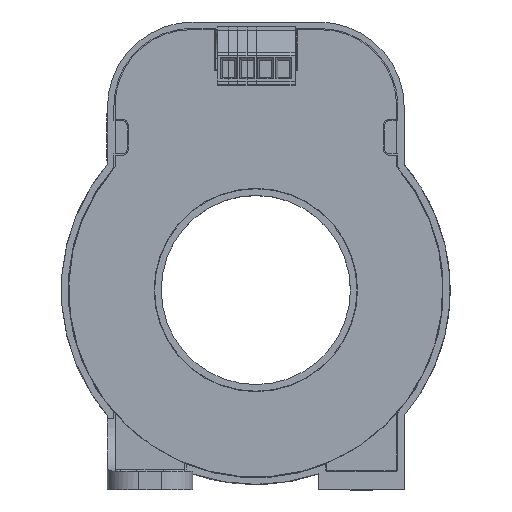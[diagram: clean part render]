
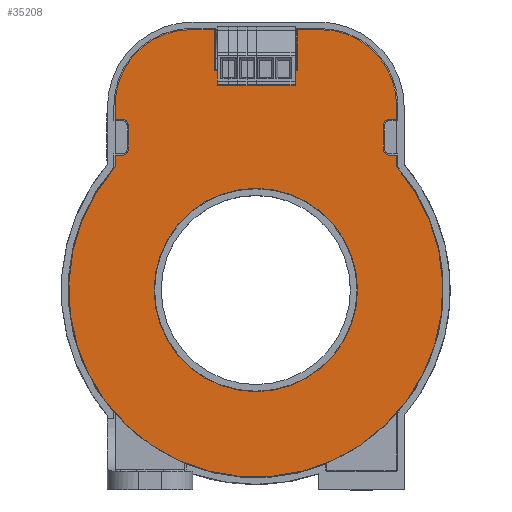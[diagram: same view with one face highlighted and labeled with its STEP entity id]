
A CAD part, top view. The second image highlights one B-rep face of the part: STEP entity #35208.
In plain terms, the highlighted planar face has unit normal (0, 0, 1).
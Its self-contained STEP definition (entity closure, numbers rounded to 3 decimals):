
#122=FACE_BOUND('',#4939,.T.);
#1578=PLANE('',#37513);
#3184=FACE_OUTER_BOUND('',#4938,.T.);
#4938=EDGE_LOOP('',(#30350,#30351,#30352,#30353,#30354,#30355,#30356,#30357,
#30358,#30359,#30360,#30361,#30362,#30363,#30364,#30365,#30366,#30367,#30368,
#30369,#30370,#30371));
#4939=EDGE_LOOP('',(#30372));
#8812=LINE('',#55586,#12870);
#8818=LINE('',#55602,#12876);
#8822=LINE('',#55614,#12880);
#8826=LINE('',#55622,#12884);
#8830=LINE('',#55642,#12888);
#8833=LINE('',#55648,#12891);
#8838=LINE('',#55662,#12896);
#8842=LINE('',#55674,#12900);
#8846=LINE('',#55682,#12904);
#8850=LINE('',#55694,#12908);
#8853=LINE('',#55700,#12911);
#8857=LINE('',#55708,#12915);
#8860=LINE('',#55714,#12918);
#8864=LINE('',#55722,#12922);
#8868=LINE('',#55733,#12926);
#12870=VECTOR('',#45633,10.);
#12876=VECTOR('',#45647,10.);
#12880=VECTOR('',#45659,10.);
#12884=VECTOR('',#45665,10.);
#12888=VECTOR('',#45685,10.);
#12891=VECTOR('',#45690,10.);
#12896=VECTOR('',#45703,10.);
#12900=VECTOR('',#45715,10.);
#12904=VECTOR('',#45721,10.);
#12908=VECTOR('',#45733,10.);
#12911=VECTOR('',#45738,10.);
#12915=VECTOR('',#45744,10.);
#12918=VECTOR('',#45749,10.);
#12922=VECTOR('',#45755,10.);
#12926=VECTOR('',#45767,10.);
#13832=CIRCLE('',#37471,19.35);
#13834=CIRCLE('',#37475,1.225);
#13836=CIRCLE('',#37479,1.225);
#13838=CIRCLE('',#37484,35.6);
#13844=CIRCLE('',#37493,1.225);
#13846=CIRCLE('',#37497,1.225);
#13848=CIRCLE('',#37502,14.398);
#13850=CIRCLE('',#37510,14.398);
#16833=VERTEX_POINT('',#55578);
#16835=VERTEX_POINT('',#55584);
#16836=VERTEX_POINT('',#55585);
#16840=VERTEX_POINT('',#55595);
#16842=VERTEX_POINT('',#55601);
#16844=VERTEX_POINT('',#55607);
#16846=VERTEX_POINT('',#55613);
#16849=VERTEX_POINT('',#55621);
#16851=VERTEX_POINT('',#55627);
#16857=VERTEX_POINT('',#55641);
#16859=VERTEX_POINT('',#55647);
#16862=VERTEX_POINT('',#55655);
#16864=VERTEX_POINT('',#55661);
#16866=VERTEX_POINT('',#55667);
#16868=VERTEX_POINT('',#55673);
#16871=VERTEX_POINT('',#55681);
#16873=VERTEX_POINT('',#55687);
#16875=VERTEX_POINT('',#55693);
#16877=VERTEX_POINT('',#55699);
#16880=VERTEX_POINT('',#55707);
#16882=VERTEX_POINT('',#55713);
#16885=VERTEX_POINT('',#55721);
#16887=VERTEX_POINT('',#55727);
#21498=EDGE_CURVE('',#16833,#16833,#13832,.T.);
#21501=EDGE_CURVE('',#16835,#16836,#8812,.T.);
#21506=EDGE_CURVE('',#16836,#16840,#13834,.T.);
#21509=EDGE_CURVE('',#16840,#16842,#8818,.T.);
#21512=EDGE_CURVE('',#16842,#16844,#13836,.T.);
#21515=EDGE_CURVE('',#16844,#16846,#8822,.T.);
#21519=EDGE_CURVE('',#16846,#16849,#8826,.T.);
#21522=EDGE_CURVE('',#16849,#16851,#13838,.T.);
#21529=EDGE_CURVE('',#16851,#16857,#8830,.T.);
#21532=EDGE_CURVE('',#16857,#16859,#8833,.T.);
#21536=EDGE_CURVE('',#16859,#16862,#13844,.T.);
#21539=EDGE_CURVE('',#16862,#16864,#8838,.T.);
#21542=EDGE_CURVE('',#16864,#16866,#13846,.T.);
#21545=EDGE_CURVE('',#16866,#16868,#8842,.T.);
#21549=EDGE_CURVE('',#16868,#16871,#8846,.T.);
#21552=EDGE_CURVE('',#16871,#16873,#13848,.T.);
#21555=EDGE_CURVE('',#16873,#16875,#8850,.T.);
#21558=EDGE_CURVE('',#16875,#16877,#8853,.T.);
#21562=EDGE_CURVE('',#16877,#16880,#8857,.T.);
#21565=EDGE_CURVE('',#16880,#16882,#8860,.T.);
#21569=EDGE_CURVE('',#16882,#16885,#8864,.T.);
#21572=EDGE_CURVE('',#16885,#16887,#13850,.T.);
#21575=EDGE_CURVE('',#16887,#16835,#8868,.T.);
#30350=ORIENTED_EDGE('',*,*,#21575,.T.);
#30351=ORIENTED_EDGE('',*,*,#21501,.T.);
#30352=ORIENTED_EDGE('',*,*,#21506,.T.);
#30353=ORIENTED_EDGE('',*,*,#21509,.T.);
#30354=ORIENTED_EDGE('',*,*,#21512,.T.);
#30355=ORIENTED_EDGE('',*,*,#21515,.T.);
#30356=ORIENTED_EDGE('',*,*,#21519,.T.);
#30357=ORIENTED_EDGE('',*,*,#21522,.T.);
#30358=ORIENTED_EDGE('',*,*,#21529,.T.);
#30359=ORIENTED_EDGE('',*,*,#21532,.T.);
#30360=ORIENTED_EDGE('',*,*,#21536,.T.);
#30361=ORIENTED_EDGE('',*,*,#21539,.T.);
#30362=ORIENTED_EDGE('',*,*,#21542,.T.);
#30363=ORIENTED_EDGE('',*,*,#21545,.T.);
#30364=ORIENTED_EDGE('',*,*,#21549,.T.);
#30365=ORIENTED_EDGE('',*,*,#21552,.T.);
#30366=ORIENTED_EDGE('',*,*,#21555,.T.);
#30367=ORIENTED_EDGE('',*,*,#21558,.T.);
#30368=ORIENTED_EDGE('',*,*,#21562,.T.);
#30369=ORIENTED_EDGE('',*,*,#21565,.T.);
#30370=ORIENTED_EDGE('',*,*,#21569,.T.);
#30371=ORIENTED_EDGE('',*,*,#21572,.T.);
#30372=ORIENTED_EDGE('',*,*,#21498,.T.);
#35208=ADVANCED_FACE('',(#3184,#122),#1578,.F.);
#37471=AXIS2_PLACEMENT_3D('',#55579,#45626,#45627);
#37475=AXIS2_PLACEMENT_3D('',#55596,#45640,#45641);
#37479=AXIS2_PLACEMENT_3D('',#55608,#45652,#45653);
#37484=AXIS2_PLACEMENT_3D('',#55628,#45670,#45671);
#37493=AXIS2_PLACEMENT_3D('',#55656,#45696,#45697);
#37497=AXIS2_PLACEMENT_3D('',#55668,#45708,#45709);
#37502=AXIS2_PLACEMENT_3D('',#55688,#45726,#45727);
#37510=AXIS2_PLACEMENT_3D('',#55728,#45760,#45761);
#37513=AXIS2_PLACEMENT_3D('',#55735,#45769,#45770);
#45626=DIRECTION('center_axis',(0.,0.,
-1.));
#45627=DIRECTION('ref_axis',(1.,0.,0.));
#45633=DIRECTION('',(1.,0.,0.));
#45640=DIRECTION('center_axis',(0.,0.,
-1.));
#45641=DIRECTION('ref_axis',(0.2,0.98,0.));
#45647=DIRECTION('',(0.,-1.,0.));
#45652=DIRECTION('center_axis',(0.,0.,
-1.));
#45653=DIRECTION('ref_axis',(0.98,-0.2,0.));
#45659=DIRECTION('',(-1.,0.,0.));
#45665=DIRECTION('',(0.,-1.,0.));
#45670=DIRECTION('center_axis',(0.,0.,
1.));
#45671=DIRECTION('ref_axis',(-0.752,-0.659,0.));
#45685=DIRECTION('',(0.,1.,0.));
#45690=DIRECTION('',(-1.,0.,0.));
#45696=DIRECTION('center_axis',(0.,0.,
-1.));
#45697=DIRECTION('ref_axis',(-0.2,-0.98,0.));
#45703=DIRECTION('',(0.,1.,0.));
#45708=DIRECTION('center_axis',(0.,0.,
-1.));
#45709=DIRECTION('ref_axis',(-0.98,0.2,0.));
#45715=DIRECTION('',(1.,0.,0.));
#45721=DIRECTION('',(0.,1.,0.));
#45726=DIRECTION('center_axis',(0.,0.,
1.));
#45727=DIRECTION('ref_axis',(0.,-1.,0.));
#45733=DIRECTION('',(-1.,0.,0.));
#45738=DIRECTION('',(0.,-1.,0.));
#45744=DIRECTION('',(-1.,0.,0.));
#45749=DIRECTION('',(0.,1.,0.));
#45755=DIRECTION('',(-1.,0.,0.));
#45760=DIRECTION('center_axis',(0.,0.,
1.));
#45761=DIRECTION('ref_axis',(1.,0.,0.));
#45767=DIRECTION('',(0.,-1.,0.));
#45769=DIRECTION('center_axis',(0.,0.,
-1.));
#45770=DIRECTION('ref_axis',(-1.,0.,0.));
#55578=CARTESIAN_POINT('',(-19.35,0.,25.2));
#55579=CARTESIAN_POINT('Origin',(0.,0.,
25.2));
#55584=CARTESIAN_POINT('',(-26.786,32.451,25.2));
#55585=CARTESIAN_POINT('',(-25.224,32.451,25.2));
#55586=CARTESIAN_POINT('',(-26.786,32.451,25.2));
#55595=CARTESIAN_POINT('',(-24.268,31.495,25.2));
#55596=CARTESIAN_POINT('Origin',(-25.468,31.25,25.2));
#55601=CARTESIAN_POINT('',(-24.268,26.62,25.2));
#55602=CARTESIAN_POINT('',(-24.268,31.495,25.2));
#55607=CARTESIAN_POINT('',(-25.224,25.664,25.2));
#55608=CARTESIAN_POINT('Origin',(-25.468,26.864,25.2));
#55613=CARTESIAN_POINT('',(-26.786,25.664,25.2));
#55614=CARTESIAN_POINT('',(-25.224,25.664,25.2));
#55621=CARTESIAN_POINT('',(-26.786,23.449,25.2));
#55622=CARTESIAN_POINT('',(-26.786,25.664,25.2));
#55627=CARTESIAN_POINT('',(26.786,23.449,25.2));
#55628=CARTESIAN_POINT('Origin',(0.,0.,
25.2));
#55641=CARTESIAN_POINT('',(26.786,25.664,25.2));
#55642=CARTESIAN_POINT('',(26.786,23.449,25.2));
#55647=CARTESIAN_POINT('',(25.224,25.664,25.2));
#55648=CARTESIAN_POINT('',(26.786,25.664,25.2));
#55655=CARTESIAN_POINT('',(24.268,26.62,25.2));
#55656=CARTESIAN_POINT('Origin',(25.468,26.864,25.2));
#55661=CARTESIAN_POINT('',(24.268,31.495,25.2));
#55662=CARTESIAN_POINT('',(24.268,26.62,25.2));
#55667=CARTESIAN_POINT('',(25.224,32.451,25.2));
#55668=CARTESIAN_POINT('Origin',(25.468,31.25,25.2));
#55673=CARTESIAN_POINT('',(26.786,32.451,25.2));
#55674=CARTESIAN_POINT('',(25.224,32.451,25.2));
#55681=CARTESIAN_POINT('',(26.786,35.138,25.2));
#55682=CARTESIAN_POINT('',(26.786,32.451,25.2));
#55687=CARTESIAN_POINT('',(12.388,49.536,25.2));
#55688=CARTESIAN_POINT('Origin',(12.388,35.138,25.2));
#55693=CARTESIAN_POINT('',(7.9,49.536,25.2));
#55694=CARTESIAN_POINT('',(12.388,49.536,25.2));
#55699=CARTESIAN_POINT('',(7.9,41.741,25.2));
#55700=CARTESIAN_POINT('',(7.9,49.536,25.2));
#55707=CARTESIAN_POINT('',(-7.9,41.741,25.2));
#55708=CARTESIAN_POINT('',(7.9,41.741,25.2));
#55713=CARTESIAN_POINT('',(-7.9,49.536,25.2));
#55714=CARTESIAN_POINT('',(-7.9,41.741,25.2));
#55721=CARTESIAN_POINT('',(-12.388,49.536,25.2));
#55722=CARTESIAN_POINT('',(-7.9,49.536,25.2));
#55727=CARTESIAN_POINT('',(-26.786,35.138,25.2));
#55728=CARTESIAN_POINT('Origin',(-12.388,35.138,25.2));
#55733=CARTESIAN_POINT('',(-26.786,35.138,25.2));
#55735=CARTESIAN_POINT('Origin',(0.,12.214,
25.2));
